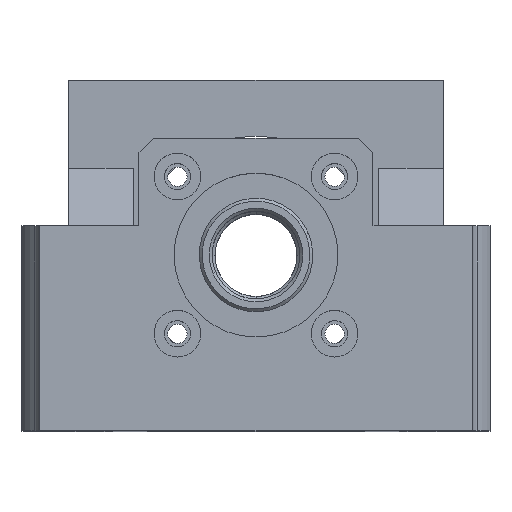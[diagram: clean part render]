
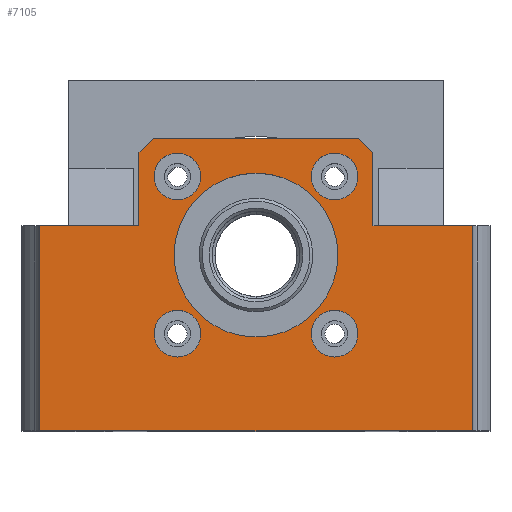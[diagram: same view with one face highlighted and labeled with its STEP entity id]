
A CAD part, top view. The second image highlights one B-rep face of the part: STEP entity #7105.
In plain terms, the highlighted planar face has unit normal (0, 0, 1).
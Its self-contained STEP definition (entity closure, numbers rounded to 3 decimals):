
#4898=CARTESIAN_POINT('',(13.435,13.435,153.));
#4899=DIRECTION('',(0.,0.,-1.));
#4900=DIRECTION('',(1.,0.,0.));
#4901=AXIS2_PLACEMENT_3D('',#4898,#4899,#4900);
#4903=CARTESIAN_POINT('',(13.435,13.435,153.));
#4904=DIRECTION('',(0.,0.,-1.));
#4905=DIRECTION('',(-1.,0.,0.));
#4906=AXIS2_PLACEMENT_3D('',#4903,#4904,#4905);
#4908=CARTESIAN_POINT('',(13.435,-13.435,153.));
#4909=DIRECTION('',(0.,0.,-1.));
#4910=DIRECTION('',(1.,0.,0.));
#4911=AXIS2_PLACEMENT_3D('',#4908,#4909,#4910);
#4913=CARTESIAN_POINT('',(13.435,-13.435,153.));
#4914=DIRECTION('',(0.,0.,-1.));
#4915=DIRECTION('',(-1.,0.,0.));
#4916=AXIS2_PLACEMENT_3D('',#4913,#4914,#4915);
#4918=CARTESIAN_POINT('',(-13.435,-13.435,153.));
#4919=DIRECTION('',(0.,0.,-1.));
#4920=DIRECTION('',(1.,0.,0.));
#4921=AXIS2_PLACEMENT_3D('',#4918,#4919,#4920);
#4923=CARTESIAN_POINT('',(-13.435,-13.435,153.));
#4924=DIRECTION('',(0.,0.,-1.));
#4925=DIRECTION('',(-1.,0.,0.));
#4926=AXIS2_PLACEMENT_3D('',#4923,#4924,#4925);
#4928=CARTESIAN_POINT('',(-13.435,13.435,153.));
#4929=DIRECTION('',(0.,0.,-1.));
#4930=DIRECTION('',(1.,0.,0.));
#4931=AXIS2_PLACEMENT_3D('',#4928,#4929,#4930);
#4933=CARTESIAN_POINT('',(-13.435,13.435,153.));
#4934=DIRECTION('',(0.,0.,-1.));
#4935=DIRECTION('',(-1.,0.,0.));
#4936=AXIS2_PLACEMENT_3D('',#4933,#4934,#4935);
#4938=CARTESIAN_POINT('',(0.,0.,153.));
#4939=DIRECTION('',(0.,0.,-1.));
#4940=DIRECTION('',(1.,0.,0.));
#4941=AXIS2_PLACEMENT_3D('',#4938,#4939,#4940);
#4943=CARTESIAN_POINT('',(0.,0.,153.));
#4944=DIRECTION('',(0.,0.,-1.));
#4945=DIRECTION('',(-1.,0.,0.));
#4946=AXIS2_PLACEMENT_3D('',#4943,#4944,#4945);
#4948=DIRECTION('',(0.,1.,0.));
#4949=VECTOR('',#4948,12.5);
#4950=CARTESIAN_POINT('',(20.,5.,153.));
#4951=LINE('',#4950,#4949);
#4952=DIRECTION('',(-1.,0.,0.));
#4953=VECTOR('',#4952,17.);
#4954=CARTESIAN_POINT('',(37.,5.,153.));
#4955=LINE('',#4954,#4953);
#4956=DIRECTION('',(0.,1.,0.));
#4957=VECTOR('',#4956,35.);
#4958=CARTESIAN_POINT('',(37.,-30.,153.));
#4959=LINE('',#4958,#4957);
#4960=DIRECTION('',(-1.,0.,0.));
#4961=VECTOR('',#4960,17.);
#4962=CARTESIAN_POINT('',(-20.,5.,153.));
#4963=LINE('',#4962,#4961);
#4964=DIRECTION('',(-0.707,-0.707,0.));
#4965=VECTOR('',#4964,3.536);
#4966=CARTESIAN_POINT('',(-17.5,20.,153.));
#4967=LINE('',#4966,#4965);
#4968=DIRECTION('',(-1.,0.,0.));
#4969=VECTOR('',#4968,35.);
#4970=CARTESIAN_POINT('',(17.5,20.,153.));
#4971=LINE('',#4970,#4969);
#4972=DIRECTION('',(-0.707,0.707,0.));
#4973=VECTOR('',#4972,3.536);
#4974=CARTESIAN_POINT('',(20.,17.5,153.));
#4975=LINE('',#4974,#4973);
#5156=DIRECTION('',(0.,1.,0.));
#5157=VECTOR('',#5156,12.5);
#5158=CARTESIAN_POINT('',(-20.,5.,153.));
#5159=LINE('',#5158,#5157);
#5334=DIRECTION('',(-1.,0.,0.));
#5335=VECTOR('',#5334,74.);
#5336=CARTESIAN_POINT('',(37.,-30.,153.));
#5337=LINE('',#5336,#5335);
#5537=DIRECTION('',(0.,1.,0.));
#5538=VECTOR('',#5537,35.);
#5539=CARTESIAN_POINT('',(-37.,-30.,153.));
#5540=LINE('',#5539,#5538);
#6574=CARTESIAN_POINT('',(20.,5.,153.));
#6575=VERTEX_POINT('',#6574);
#6576=CARTESIAN_POINT('',(37.,5.,153.));
#6577=VERTEX_POINT('',#6576);
#6616=CARTESIAN_POINT('',(-37.,5.,153.));
#6617=VERTEX_POINT('',#6616);
#6618=CARTESIAN_POINT('',(-20.,5.,153.));
#6619=VERTEX_POINT('',#6618);
#6620=CARTESIAN_POINT('',(20.,17.5,153.));
#6621=VERTEX_POINT('',#6620);
#6626=CARTESIAN_POINT('',(17.5,20.,153.));
#6627=VERTEX_POINT('',#6626);
#6630=CARTESIAN_POINT('',(-17.5,20.,153.));
#6631=VERTEX_POINT('',#6630);
#6638=CARTESIAN_POINT('',(-20.,17.5,153.));
#6639=VERTEX_POINT('',#6638);
#6646=CARTESIAN_POINT('',(-37.,-30.,153.));
#6647=VERTEX_POINT('',#6646);
#6660=CARTESIAN_POINT('',(37.,-30.,153.));
#6661=VERTEX_POINT('',#6660);
#6732=CARTESIAN_POINT('',(-14.,0.,153.));
#6733=CARTESIAN_POINT('',(14.,0.,153.));
#6734=VERTEX_POINT('',#6732);
#6735=VERTEX_POINT('',#6733);
#6737=CARTESIAN_POINT('',(-9.435,-13.435,153.));
#6739=VERTEX_POINT('',#6737);
#6741=CARTESIAN_POINT('',(-17.435,-13.435,153.));
#6743=VERTEX_POINT('',#6741);
#6745=CARTESIAN_POINT('',(17.435,-13.435,153.));
#6747=VERTEX_POINT('',#6745);
#6749=CARTESIAN_POINT('',(9.435,-13.435,153.));
#6751=VERTEX_POINT('',#6749);
#6753=CARTESIAN_POINT('',(17.435,13.435,153.));
#6755=VERTEX_POINT('',#6753);
#6757=CARTESIAN_POINT('',(9.435,13.435,153.));
#6759=VERTEX_POINT('',#6757);
#6761=CARTESIAN_POINT('',(-17.435,13.435,153.));
#6763=VERTEX_POINT('',#6761);
#6765=CARTESIAN_POINT('',(-9.435,13.435,153.));
#6767=VERTEX_POINT('',#6765);
#7050=CARTESIAN_POINT('',(0.,-74.607,153.));
#7051=DIRECTION('',(0.,0.,1.));
#7052=DIRECTION('',(-1.,0.,0.));
#7053=AXIS2_PLACEMENT_3D('',#7050,#7051,#7052);
#7054=PLANE('',#7053);
#7056=ORIENTED_EDGE('',*,*,#7055,.F.);
#7058=ORIENTED_EDGE('',*,*,#7057,.F.);
#7060=ORIENTED_EDGE('',*,*,#7059,.F.);
#7062=ORIENTED_EDGE('',*,*,#7061,.T.);
#7064=ORIENTED_EDGE('',*,*,#7063,.T.);
#7066=ORIENTED_EDGE('',*,*,#7065,.F.);
#7068=ORIENTED_EDGE('',*,*,#7067,.T.);
#7070=ORIENTED_EDGE('',*,*,#7069,.F.);
#7072=ORIENTED_EDGE('',*,*,#7071,.F.);
#7074=ORIENTED_EDGE('',*,*,#7073,.F.);
#7075=EDGE_LOOP('',(#7056,#7058,#7060,#7062,#7064,#7066,#7068,#7070,#7072,
#7074));
#7076=FACE_OUTER_BOUND('',#7075,.F.);
#7078=ORIENTED_EDGE('',*,*,#7077,.F.);
#7080=ORIENTED_EDGE('',*,*,#7079,.F.);
#7081=EDGE_LOOP('',(#7078,#7080));
#7082=FACE_BOUND('',#7081,.F.);
#7084=ORIENTED_EDGE('',*,*,#7083,.F.);
#7086=ORIENTED_EDGE('',*,*,#7085,.F.);
#7087=EDGE_LOOP('',(#7084,#7086));
#7088=FACE_BOUND('',#7087,.F.);
#7090=ORIENTED_EDGE('',*,*,#7089,.F.);
#7092=ORIENTED_EDGE('',*,*,#7091,.F.);
#7093=EDGE_LOOP('',(#7090,#7092));
#7094=FACE_BOUND('',#7093,.F.);
#7095=ORIENTED_EDGE('',*,*,#7044,.F.);
#7096=ORIENTED_EDGE('',*,*,#7030,.F.);
#7097=EDGE_LOOP('',(#7095,#7096));
#7098=FACE_BOUND('',#7097,.F.);
#7100=ORIENTED_EDGE('',*,*,#7099,.F.);
#7102=ORIENTED_EDGE('',*,*,#7101,.F.);
#7103=EDGE_LOOP('',(#7100,#7102));
#7104=FACE_BOUND('',#7103,.F.);
#4902=CIRCLE('',#4901,4.);
#4907=CIRCLE('',#4906,4.);
#4912=CIRCLE('',#4911,4.);
#4917=CIRCLE('',#4916,4.);
#4922=CIRCLE('',#4921,4.);
#4927=CIRCLE('',#4926,4.);
#4932=CIRCLE('',#4931,4.);
#4937=CIRCLE('',#4936,4.);
#4942=CIRCLE('',#4941,14.);
#4947=CIRCLE('',#4946,14.);
#7030=EDGE_CURVE('',#6734,#6735,#4947,.T.);
#7044=EDGE_CURVE('',#6735,#6734,#4942,.T.);
#7055=EDGE_CURVE('',#6575,#6621,#4951,.T.);
#7057=EDGE_CURVE('',#6577,#6575,#4955,.T.);
#7059=EDGE_CURVE('',#6661,#6577,#4959,.T.);
#7061=EDGE_CURVE('',#6661,#6647,#5337,.T.);
#7063=EDGE_CURVE('',#6647,#6617,#5540,.T.);
#7065=EDGE_CURVE('',#6619,#6617,#4963,.T.);
#7067=EDGE_CURVE('',#6619,#6639,#5159,.T.);
#7069=EDGE_CURVE('',#6631,#6639,#4967,.T.);
#7071=EDGE_CURVE('',#6627,#6631,#4971,.T.);
#7073=EDGE_CURVE('',#6621,#6627,#4975,.T.);
#7077=EDGE_CURVE('',#6747,#6751,#4912,.T.);
#7079=EDGE_CURVE('',#6751,#6747,#4917,.T.);
#7083=EDGE_CURVE('',#6739,#6743,#4922,.T.);
#7085=EDGE_CURVE('',#6743,#6739,#4927,.T.);
#7089=EDGE_CURVE('',#6767,#6763,#4932,.T.);
#7091=EDGE_CURVE('',#6763,#6767,#4937,.T.);
#7099=EDGE_CURVE('',#6755,#6759,#4902,.T.);
#7101=EDGE_CURVE('',#6759,#6755,#4907,.T.);
#7105=ADVANCED_FACE('',(#7076,#7082,#7088,#7094,#7098,#7104),#7054,.T.);
